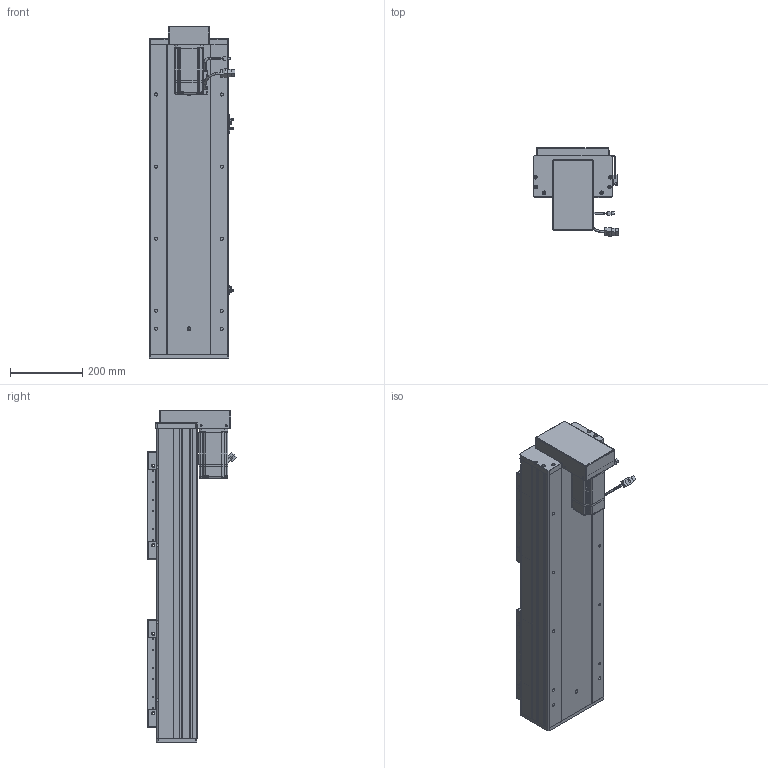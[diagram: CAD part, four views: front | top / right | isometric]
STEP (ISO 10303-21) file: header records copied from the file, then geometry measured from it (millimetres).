
FILE_DESCRIPTION (( 'STEP AP203' ), '1' );
FILE_NAME ('RY220F-L2525-300-BK.SLDASM_450.step', '2022-07-04T01:20:24', ( '' ), ( '' ), 'SwSTEP 2.0', 'SolidWorks 2016', '' );
FILE_SCHEMA (( 'CONFIG_CONTROL_DESIGN' ));
Length unit declared in the file: millimetre
Products named in the file (15): 侐源滅袉蝶; 滅袉蝶18-24; RY220F臏賑釱25-32佪裝; RY220F-滅鳥奻裔; 覜茼ん672; RY220F-祥凄詩湍-蛌殏-300_450; RY220F-詩湍揤踡輸; 怢湛750W_ECMA-CX0807ES; RY220F-蛌殏奻裔啣-300_450; RY220狟殏萇儂假蚾啣; RY220F蛌殏菁釱-300_450; RY220狟殏萇儂欶; RY220F綴裔啣; RY220F-672覜茼んえ; RY220F-L2525-300-BK.SLDASM_450
Assembly tree (24 placements, depth 2):
  RY220F-L2525-300-BK.SLDASM_450
    RY220F蛌殏菁釱-300_450
    RY220F-蛌殏奻裔啣-300_450  x2
    怢湛750W_ECMA-CX0807ES
    RY220F臏賑釱25-32佪裝  x2
    RY220F-滅鳥奻裔  x2
    滅袉蝶18-24  x3
    RY220F綴裔啣
    RY220F-祥凄詩湍-蛌殏-300_450
    RY220F-詩湍揤踡輸  x2
    覜茼ん672  x3
    RY220F-672覜茼んえ  x2
    侐源滅袉蝶  x2
    RY220狟殏萇儂假蚾啣
    RY220狟殏萇儂欶
Bounding box: 237.27 x 247.24 x 921 mm (x, y, z)
Volume: 10789625.9 mm3; surface area: 2699212.8 mm2
Topology: 25 solids, 25 shells, 2667 faces, 7266 edges, 4521 vertices
Faces by surface type: cylinder 1174, plane 1062, cone 360, bspline 45, sphere 16, torus 10
Entity records: 65869 total; most frequent: CARTESIAN_POINT 18203, ORIENTED_EDGE 9682, DIRECTION 9269, EDGE_CURVE 4841, AXIS2_PLACEMENT_3D 3254, VERTEX_POINT 3137, LINE 2761, VECTOR 2761
